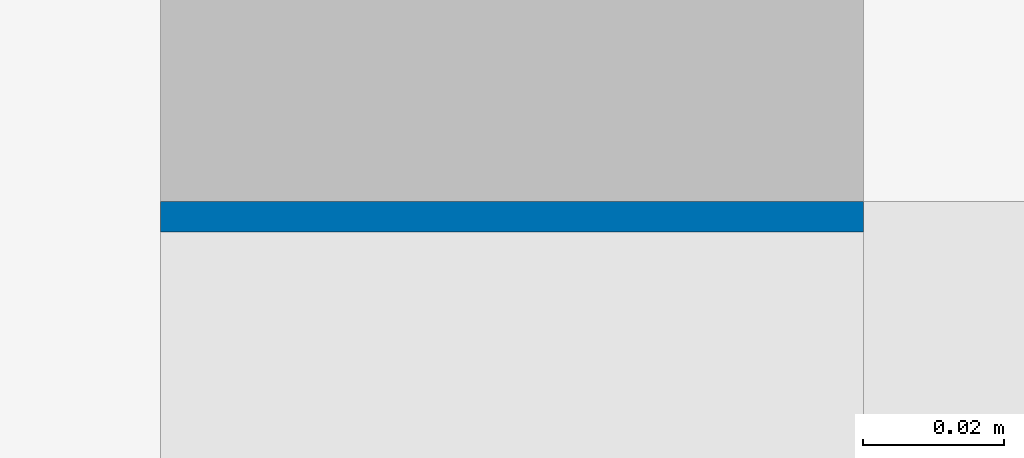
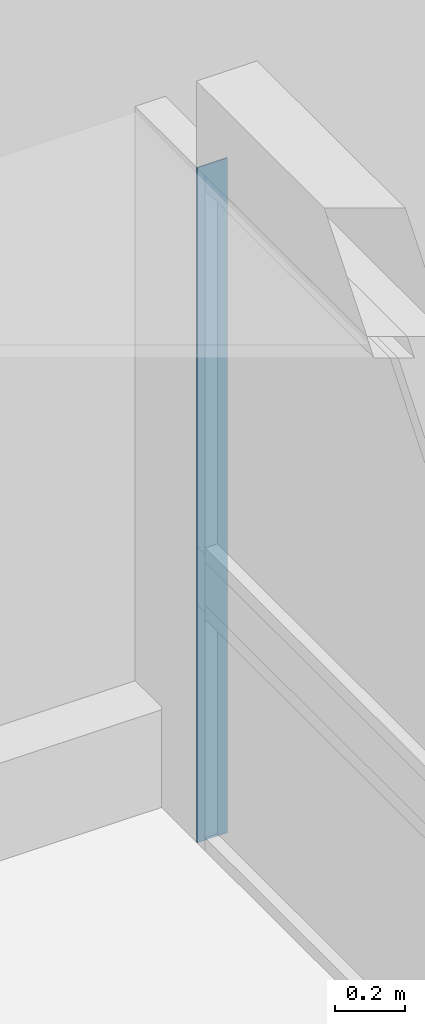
# One storey, part 121 of 153: 1 wall.
"""IFC4 building model written with IfcOpenShell, lengths in metres."""

from ifc_helpers import new_model, entity, si_unit, converted_unit, derived_unit, direction, frame, origin, place, context, subcontext, project, spatial, indexed_curve, outline, extrude, material, type_object, element, save


model = new_model("IFC4")

# Units and contexts
model_context = context("Model", 3, precision=1e-05, world=origin(), true_north=direction((6.123031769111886e-17, 1.0)))
body_context = subcontext(model_context, "Body", "Model", "MODEL_VIEW")
ifc_project = project(units=[si_unit("LENGTHUNIT", "METRE"), si_unit("AREAUNIT", "SQUARE_METRE"), si_unit("VOLUMEUNIT", "CUBIC_METRE"), converted_unit("PLANEANGLEUNIT", "DEGREE", entity("IfcRatioMeasure", 0.017453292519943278), si_unit("PLANEANGLEUNIT", "RADIAN"), dimensions=[0, 0, 0, 0, 0, 0, 0]), si_unit("MASSUNIT", "GRAM", prefix="KILO"), derived_unit("MASSDENSITYUNIT", [(si_unit("MASSUNIT", "GRAM", prefix="KILO"), 1), (si_unit("LENGTHUNIT", "METRE"), -3)]), derived_unit("MOMENTOFINERTIAUNIT", [(si_unit("LENGTHUNIT", "METRE"), 4)]), si_unit("TIMEUNIT", "SECOND"), si_unit("FREQUENCYUNIT", "HERTZ"), si_unit("THERMODYNAMICTEMPERATUREUNIT", "DEGREE_CELSIUS"), derived_unit("THERMALTRANSMITTANCEUNIT", [(si_unit("MASSUNIT", "GRAM", prefix="KILO"), 1), (si_unit("THERMODYNAMICTEMPERATUREUNIT", "KELVIN"), -1), (si_unit("TIMEUNIT", "SECOND"), -3)]), derived_unit("VOLUMETRICFLOWRATEUNIT", [(si_unit("LENGTHUNIT", "METRE"), 3), (si_unit("TIMEUNIT", "SECOND"), -1)]), derived_unit("MASSFLOWRATEUNIT", [(si_unit("MASSUNIT", "GRAM", prefix="KILO"), 1), (si_unit("TIMEUNIT", "SECOND"), -1)]), derived_unit("ROTATIONALFREQUENCYUNIT", [(si_unit("TIMEUNIT", "SECOND"), -1)]), si_unit("ELECTRICCURRENTUNIT", "AMPERE"), si_unit("ELECTRICVOLTAGEUNIT", "VOLT"), si_unit("POWERUNIT", "WATT"), si_unit("FORCEUNIT", "NEWTON", prefix="KILO"), si_unit("ILLUMINANCEUNIT", "LUX"), si_unit("LUMINOUSFLUXUNIT", "LUMEN"), si_unit("LUMINOUSINTENSITYUNIT", "CANDELA"), derived_unit("USERDEFINED", [(si_unit("MASSUNIT", "GRAM", prefix="KILO"), -1), (si_unit("LENGTHUNIT", "METRE"), -2), (si_unit("TIMEUNIT", "SECOND"), 3), (si_unit("LUMINOUSFLUXUNIT", "LUMEN"), 1)]), derived_unit("SOUNDPOWERUNIT", [(si_unit("MASSUNIT", "GRAM", prefix="KILO"), 1), (si_unit("LENGTHUNIT", "METRE"), 2), (si_unit("TIMEUNIT", "SECOND"), -3)]), derived_unit("SOUNDPRESSUREUNIT", [(si_unit("MASSUNIT", "GRAM", prefix="KILO"), 1), (si_unit("LENGTHUNIT", "METRE"), -1), (si_unit("TIMEUNIT", "SECOND"), -2)]), derived_unit("LINEARVELOCITYUNIT", [(si_unit("LENGTHUNIT", "METRE"), 1), (si_unit("TIMEUNIT", "SECOND"), -1)]), si_unit("PRESSUREUNIT", "PASCAL"), derived_unit("USERDEFINED", [(si_unit("LENGTHUNIT", "METRE"), -2), (si_unit("MASSUNIT", "GRAM", prefix="KILO"), 1), (si_unit("TIMEUNIT", "SECOND"), -2)]), derived_unit("LINEARFORCEUNIT", [(si_unit("MASSUNIT", "GRAM", prefix="KILO"), 1), (si_unit("LENGTHUNIT", "METRE"), 1), (si_unit("TIMEUNIT", "SECOND"), -2), (si_unit("LENGTHUNIT", "METRE"), -1)]), derived_unit("PLANARFORCEUNIT", [(si_unit("MASSUNIT", "GRAM", prefix="KILO"), 1), (si_unit("LENGTHUNIT", "METRE"), 1), (si_unit("TIMEUNIT", "SECOND"), -2), (si_unit("LENGTHUNIT", "METRE"), -2)])], contexts=[model_context])

# Site, building, storey
site_placement = place(None, origin())
site = spatial("IfcSite", under=ifc_project, at=site_placement, Name="Superficie", CompositionType="ELEMENT")
building_placement = place(site_placement, origin())
building = spatial("IfcBuilding", under=site, at=building_placement, CompositionType="ELEMENT")
storey_placement = place(building_placement, frame((0.0, 0.0, 3.5999999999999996)))
storey = spatial("IfcBuildingStorey", under=building, at=storey_placement, Name="Nivel 1", CompositionType="ELEMENT", Elevation=3.5999999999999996)

# Wall
ifc_material = material(Name="Muro por defecto", Category="Varios")
wall_type = type_object("IfcWallType", Name="Muro básico:Por defecto - 10 cm", PredefinedType="STANDARD")
wall_placement = place(storey_placement, frame((10.596799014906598, 5.276393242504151, 0.0), z_axis=(0.0, 0.0, 1.0), x_axis=(0.0, -1.0, 0.0)))
element("IfcWall", 1, at=wall_placement, inside=storey, type_object=wall_type, material=ifc_material, Name="Muro básico:Por defecto - 10 cm", ObjectType="Muro básico:Por defecto - 10 cm", PredefinedType="NOTDEFINED", context=body_context, shape_type="SweptSolid", body=[
    extrude(outline(indexed_curve([(0.004310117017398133, 0.04999999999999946), (0.0, 0.04999999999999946), (0.0, -0.04999999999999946), (0.004310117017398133, -0.04999999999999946), (0.004310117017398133, 0.04999999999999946)], self_intersect=False)), origin(), (0.0, 0.0, 1.0), 2.3500000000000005),
])

save(model, "model.ifc")
